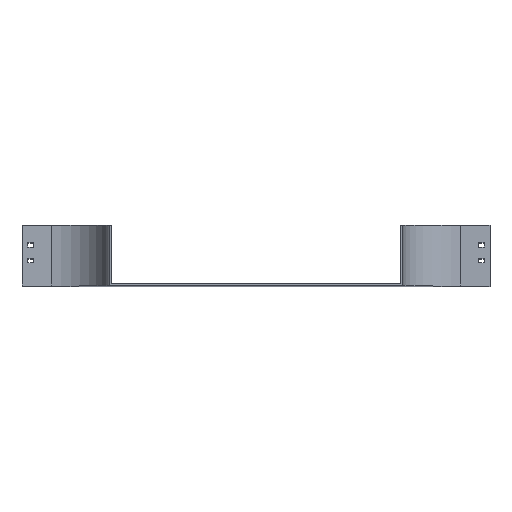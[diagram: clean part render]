
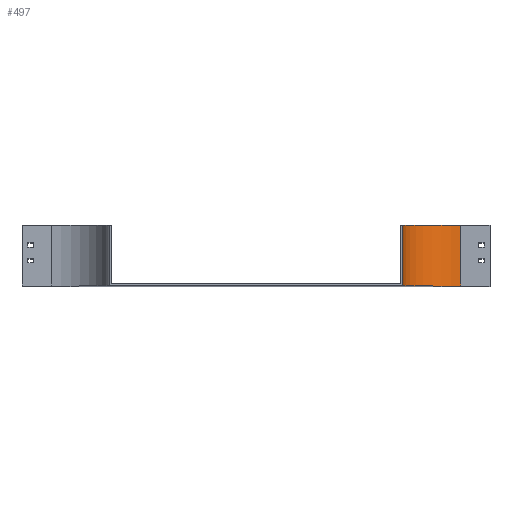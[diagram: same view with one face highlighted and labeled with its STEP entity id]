
A CAD part, top view. The second image highlights one B-rep face of the part: STEP entity #497.
In plain terms, the highlighted cylindrical face has radius 100 mm (diameter 200 mm), a partial arc.
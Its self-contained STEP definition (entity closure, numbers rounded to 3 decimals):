
#146 = CARTESIAN_POINT ( 'NONE',  ( 0., 104., -100. ) ) ;
#280 = DIRECTION ( 'NONE',  ( 0., -1., 0. ) ) ;
#409 = VECTOR ( 'NONE', #3307, 1000. ) ;
#481 = EDGE_CURVE ( 'NONE', #2203, #3522, #1260, .T. ) ;
#497 = ADVANCED_FACE ( 'NONE', ( #631 ), #1517, .F. ) ;
#546 = DIRECTION ( 'NONE',  ( 0., 0., -1. ) ) ;
#631 = FACE_OUTER_BOUND ( 'NONE', #2667, .T. ) ;
#717 = DIRECTION ( 'NONE',  ( 0., -1., 0. ) ) ;
#742 = VECTOR ( 'NONE', #717, 1000. ) ;
#769 = DIRECTION ( 'NONE',  ( 0., -1., 0. ) ) ;
#810 = AXIS2_PLACEMENT_3D ( 'NONE', #3570, #769, #2387 ) ;
#845 = EDGE_CURVE ( 'NONE', #2662, #2479, #1962, .T. ) ;
#922 = ORIENTED_EDGE ( 'NONE', *, *, #1194, .F. ) ;
#1015 = LINE ( 'NONE', #3353, #742 ) ;
#1194 = EDGE_CURVE ( 'NONE', #2479, #3522, #2684, .T. ) ;
#1260 = CIRCLE ( 'NONE', #3213, 100. ) ;
#1517 = CYLINDRICAL_SURFACE ( 'NONE', #3339, 100. ) ;
#1962 = CIRCLE ( 'NONE', #810, 100. ) ;
#2089 = CARTESIAN_POINT ( 'NONE',  ( 0., 0., 0. ) ) ;
#2156 = CARTESIAN_POINT ( 'NONE',  ( 0., 104., -100. ) ) ;
#2203 = VERTEX_POINT ( 'NONE', #3332 ) ;
#2220 = EDGE_CURVE ( 'NONE', #2662, #2203, #1015, .T. ) ;
#2330 = CARTESIAN_POINT ( 'NONE',  ( -100., 104., 0. ) ) ;
#2387 = DIRECTION ( 'NONE',  ( 0., 0., -1. ) ) ;
#2424 = ORIENTED_EDGE ( 'NONE', *, *, #481, .T. ) ;
#2479 = VERTEX_POINT ( 'NONE', #146 ) ;
#2662 = VERTEX_POINT ( 'NONE', #2330 ) ;
#2667 = EDGE_LOOP ( 'NONE', ( #2424, #922, #3114, #3847 ) ) ;
#2680 = CARTESIAN_POINT ( 'NONE',  ( 0., 104., 0. ) ) ;
#2684 = LINE ( 'NONE', #2156, #409 ) ;
#2906 = DIRECTION ( 'NONE',  ( 0., 0., -1. ) ) ;
#3114 = ORIENTED_EDGE ( 'NONE', *, *, #845, .F. ) ;
#3213 = AXIS2_PLACEMENT_3D ( 'NONE', #2089, #3267, #546 ) ;
#3267 = DIRECTION ( 'NONE',  ( 0., -1., 0. ) ) ;
#3284 = CARTESIAN_POINT ( 'NONE',  ( 0., 0., -100. ) ) ;
#3307 = DIRECTION ( 'NONE',  ( 0., -1., 0. ) ) ;
#3332 = CARTESIAN_POINT ( 'NONE',  ( -100., 0., 0. ) ) ;
#3339 = AXIS2_PLACEMENT_3D ( 'NONE', #2680, #280, #2906 ) ;
#3353 = CARTESIAN_POINT ( 'NONE',  ( -100., 104., 0. ) ) ;
#3522 = VERTEX_POINT ( 'NONE', #3284 ) ;
#3570 = CARTESIAN_POINT ( 'NONE',  ( 0., 104., 0. ) ) ;
#3847 = ORIENTED_EDGE ( 'NONE', *, *, #2220, .T. ) ;
